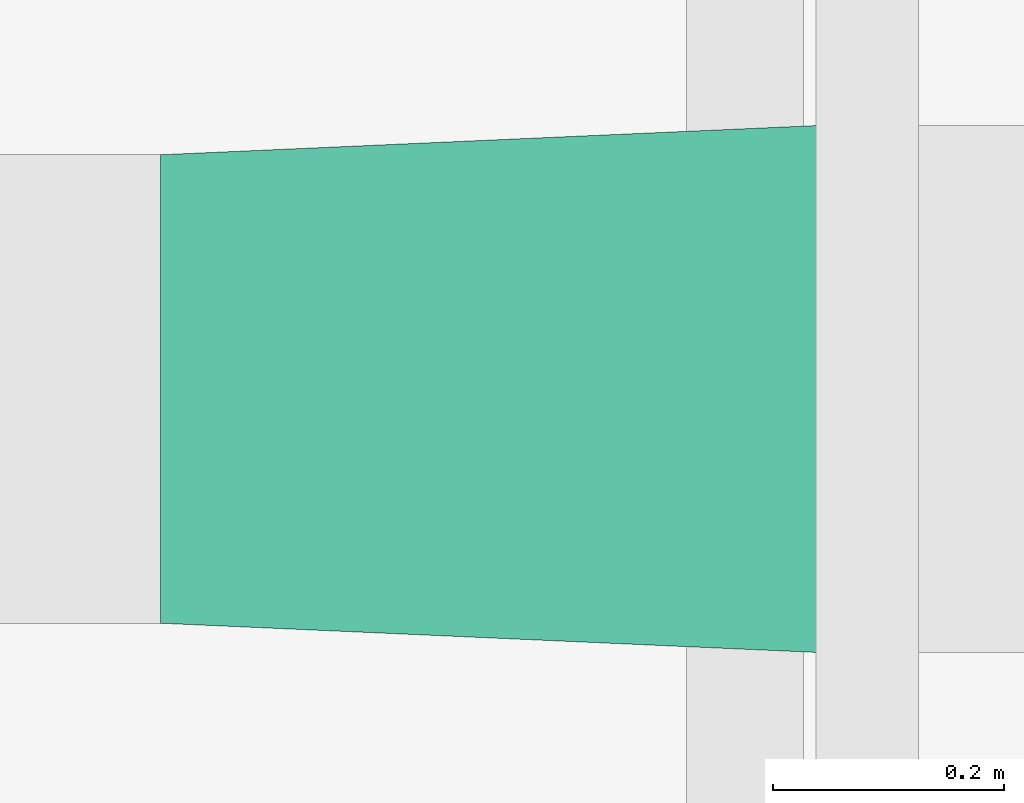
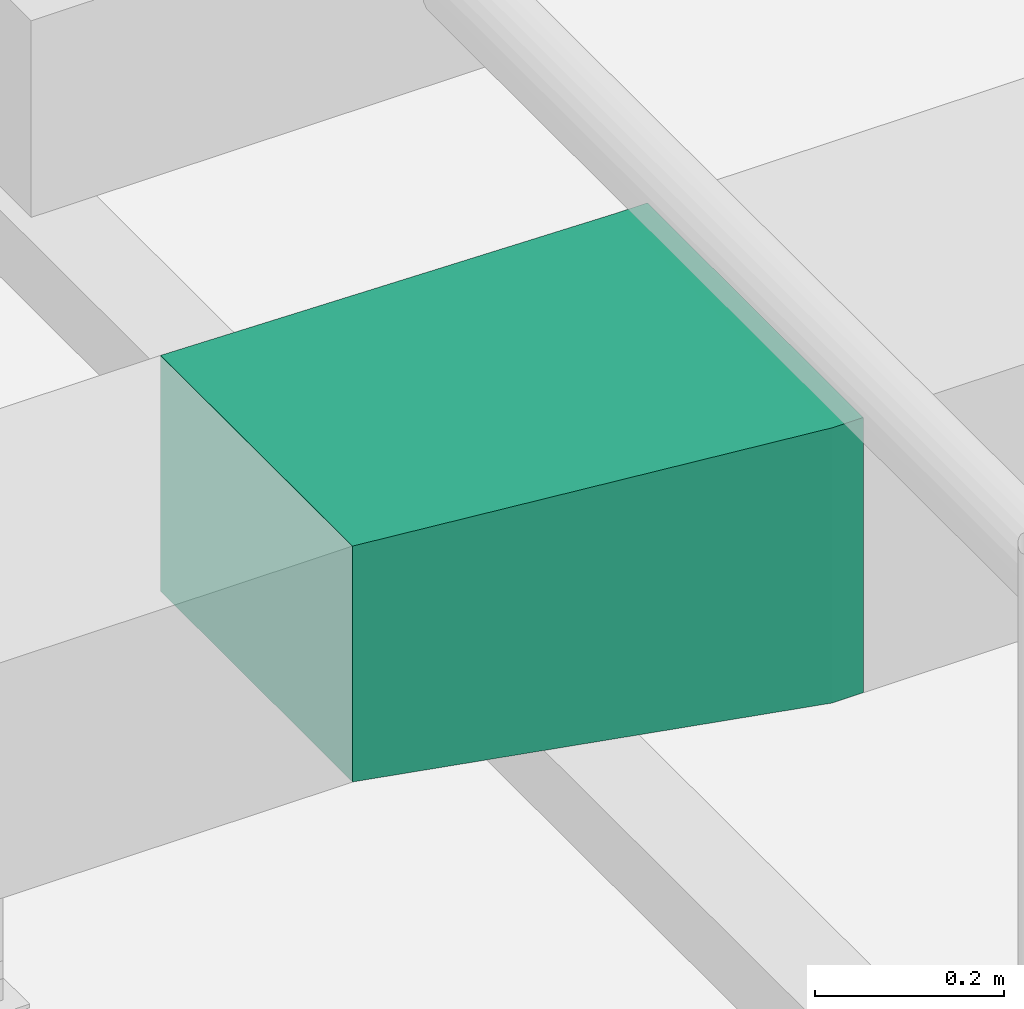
# One storey, part 106 of 108: 1 duct fitting.
"""IFC4 building model written with IfcOpenShell, lengths in feet."""

import ifcopenshell
import ifcopenshell.guid

model = None  # the IFC model being written
_history = None  # IfcOwnerHistory: only IFC2X3 demands one
_inside = {}  # id of a spatial element -> (the spatial element, [elements in it])
_under = {}  # id of a project, library or spatial element -> (it, [spatial elements below it])
_declared = {}  # id of a project -> (the project, [libraries it declares])
_typed = {}  # id of a type object -> (the type object, [elements of that type])
_made_of = {}  # id of a material, layer set ... -> (it, [elements and type objects made of it])


def new_model(schema):
    """Start an empty IFC model of exactly this schema.

    Asked for "IFC4X3", IfcOpenShell would pick the latest addendum, in which some entities
    have other attributes; the version numbers below select the first issue.
    IFC2X3 requires an IfcOwnerHistory on every rooted entity: one is made here for all.
    """
    global model, _history
    if schema == "IFC4X3":
        model = ifcopenshell.file(schema_version=(4, 3, 0, 0))
    else:
        model = ifcopenshell.file(schema=schema)
    _inside.clear()
    _under.clear()
    _declared.clear()
    _typed.clear()
    _made_of.clear()
    _history = None
    if model.schema == "IFC2X3":
        org = make("IfcOrganization", Name="unknown")
        user = make(
            "IfcPersonAndOrganization",
            ThePerson=make("IfcPerson", FamilyName="unknown"),
            TheOrganization=org,
        )
        app = make(
            "IfcApplication",
            ApplicationDeveloper=org,
            Version="unknown",
            ApplicationFullName="unknown",
            ApplicationIdentifier="unknown",
        )
        _history = make(
            "IfcOwnerHistory",
            OwningUser=user,
            OwningApplication=app,
            ChangeAction="ADDED",
            CreationDate=0,
        )
    return model


def make(cls, **values):
    """One entity of the class cls with the attributes given. An attribute that is None is left unset."""
    return model.create_entity(
        cls, **{name: value for name, value in values.items() if value is not None}
    )


def entity(cls, *values):
    """Any entity or typed value of the class cls, its attributes in the order of the schema. None: left unset."""
    e = model.create_entity(cls)
    for i, value in enumerate(values):
        if value is not None:
            e[i] = value
    return e


def rooted(cls, **values):
    """An entity with a GlobalId (a new one), such as an element, a storey or a relation."""
    return make(cls, GlobalId=ifcopenshell.guid.new(), OwnerHistory=_history, **values)


def si_unit(unit_type, name, prefix=None):
    """IfcSIUnit, for example si_unit("LENGTHUNIT", "METRE", prefix="MILLI")."""
    return make("IfcSIUnit", UnitType=unit_type, Prefix=prefix, Name=name)


def converted_unit(unit_type, name, factor, base, dimensions=None, offset=None):
    """IfcConversionBasedUnit, such as the inch: factor (a typed value) times the base unit."""
    return make(
        "IfcConversionBasedUnit"
        if offset is None
        else "IfcConversionBasedUnitWithOffset",
        ConversionOffset=offset,
        Dimensions=None
        if dimensions is None
        else entity("IfcDimensionalExponents", *dimensions),
        UnitType=unit_type,
        Name=name,
        ConversionFactor=make(
            "IfcMeasureWithUnit", ValueComponent=factor, UnitComponent=base
        ),
    )


def derived_unit(unit_type, elements):
    """IfcDerivedUnit: a product of units, each with its exponent."""
    return make(
        "IfcDerivedUnit",
        Elements=[
            make("IfcDerivedUnitElement", Unit=unit, Exponent=power)
            for unit, power in elements
        ],
        UnitType=unit_type,
    )


def assignment(units):
    """IfcUnitAssignment: the units of a project."""
    return None if units is None else make("IfcUnitAssignment", Units=units)


def point(xyz):
    """IfcCartesianPoint."""
    return None if xyz is None else make("IfcCartesianPoint", Coordinates=xyz)


def direction(xyz):
    """IfcDirection."""
    return None if xyz is None else make("IfcDirection", DirectionRatios=xyz)


def frame(location, z_axis=None, x_axis=None):
    """IfcAxis2Placement3D, a coordinate frame: its origin and axes. An axis left out is left unset."""
    return make(
        "IfcAxis2Placement3D",
        Location=point(location),
        Axis=direction(z_axis),
        RefDirection=direction(x_axis),
    )


def origin():
    """The frame at (0, 0, 0) with its axes left unset."""
    return frame((0.0, 0.0, 0.0))


def place(relative_to, where):
    """IfcLocalPlacement: puts the frame where relative to a parent placement (None: the world)."""
    return make(
        "IfcLocalPlacement", PlacementRelTo=relative_to, RelativePlacement=where
    )


def context(
    kind, dimensions, precision=None, world=None, true_north=None, identifier=None
):
    """IfcGeometricRepresentationContext, for example the 3D "Model" context."""
    return make(
        "IfcGeometricRepresentationContext",
        ContextIdentifier=identifier,
        ContextType=kind,
        CoordinateSpaceDimension=dimensions,
        Precision=precision,
        WorldCoordinateSystem=world,
        TrueNorth=true_north,
    )


def subcontext(parent, identifier, kind, view, scale=None):
    """IfcGeometricRepresentationSubContext, for example "Body" below "Model"."""
    return make(
        "IfcGeometricRepresentationSubContext",
        ContextIdentifier=identifier,
        ContextType=kind,
        ParentContext=parent,
        TargetScale=scale,
        TargetView=view,
    )


def project(units=None, contexts=None):
    """IfcProject with its units and contexts."""
    return rooted(
        "IfcProject",
        Name="project",
        RepresentationContexts=contexts,
        UnitsInContext=assignment(units),
    )


def spatial(cls, under=None, at=None, **own):
    """A site, building, storey or space (cls), placed at a placement, below another one or the project."""
    s = rooted(cls, ObjectPlacement=at, **own)
    if under is not None:
        _under.setdefault(under.id(), (under, []))[1].append(s)
    return s


def shape(context_of_items, identifier, shape_type, items):
    """IfcShapeRepresentation: the items that make up one representation, for example the "Body"."""
    return make(
        "IfcShapeRepresentation",
        ContextOfItems=context_of_items,
        RepresentationIdentifier=identifier,
        RepresentationType=shape_type,
        Items=items,
    )


def source(mapping_origin, context_of_items, identifier, shape_type, items):
    """IfcRepresentationMap: a shape defined once, which mapped items show again and again."""
    return make(
        "IfcRepresentationMap",
        MappingOrigin=mapping_origin,
        MappedRepresentation=shape(context_of_items, identifier, shape_type, items),
    )


def transform(
    local_origin,
    x_axis=None,
    y_axis=None,
    z_axis=None,
    scale=None,
    scale2=None,
    scale3=None,
    uniform=True,
):
    """IfcCartesianTransformationOperator3D, or its non-uniform kind. x_axis, y_axis, z_axis: its Axis1, 2, 3."""
    if uniform:
        return make(
            "IfcCartesianTransformationOperator3D",
            Axis1=direction(x_axis),
            Axis2=direction(y_axis),
            LocalOrigin=point(local_origin),
            Scale=scale,
            Axis3=direction(z_axis),
        )
    return make(
        "IfcCartesianTransformationOperator3DnonUniform",
        Axis1=direction(x_axis),
        Axis2=direction(y_axis),
        LocalOrigin=point(local_origin),
        Scale=scale,
        Axis3=direction(z_axis),
        Scale2=scale2,
        Scale3=scale3,
    )


def mapped(mapping_source, mapping_target):
    """IfcMappedItem: shows the shape of a source again, moved by a transform."""
    return make(
        "IfcMappedItem", MappingSource=mapping_source, MappingTarget=mapping_target
    )


def made_of(thing, what):
    """Note that an element or type object is made of a material, layer set ...; save() writes the relation."""
    if what is not None:
        _made_of.setdefault(what.id(), (what, []))[1].append(thing)
    return thing


def type_object(cls, material=None, **own):
    """A type object (cls), such as IfcWallType, which elements share."""
    return made_of(rooted(cls, **own), material)


def type_shapes(of_type, sources):
    """Give a type object the sources (RepresentationMaps) that its elements show as mapped items."""
    of_type.RepresentationMaps = sources


def element(
    cls,
    number,
    at=None,
    inside=None,
    cuts=None,
    type_object=None,
    material=None,
    context=None,
    identifier="Body",
    shape_type=None,
    held_by="IfcProductDefinitionShape",
    body=None,
    shapes=None,
    **own,
):
    """One element of the class cls, such as IfcWall. Its Tag is "e" and its number.

    at: its placement. inside: the storey or other place that contains it. cuts: it is an
    opening in that element (IfcRelVoidsElement). A single representation is given by context,
    identifier, shape_type and body (its items); several are given by shapes. held_by: the class
    of the entity that holds the representations. save() writes the other relations.
    """
    e = rooted(cls, Tag="e%d" % number, ObjectPlacement=at, **own)
    if body is not None:
        shapes = [shape(context, identifier, shape_type, body)]
    if shapes is not None:
        e.Representation = make(held_by, Representations=shapes)
    if inside is not None:
        _inside.setdefault(inside.id(), (inside, []))[1].append(e)
    if cuts is not None:
        rooted(
            "IfcRelVoidsElement", RelatingBuildingElement=cuts, RelatedOpeningElement=e
        )
    if type_object is not None:
        _typed.setdefault(type_object.id(), (type_object, []))[1].append(e)
    return made_of(e, material)


def aggregate(whole, parts):
    """IfcRelAggregates: a whole, such as a stair, and the parts it consists of."""
    return rooted("IfcRelAggregates", RelatingObject=whole, RelatedObjects=parts)


def save(model, path):
    """Write the relations noted so far, then the file.

    IfcRelAggregates (storeys below a building ...), IfcRelContainedInSpatialStructure (elements
    in a storey), IfcRelDefinesByType, IfcRelAssociatesMaterial and IfcRelDeclares: one each for
    every whole, place, type object, material and project.
    """
    for whole, parts in _under.values():
        aggregate(whole, parts)
    for where, things in _inside.values():
        rooted(
            "IfcRelContainedInSpatialStructure",
            RelatedElements=things,
            RelatingStructure=where,
        )
    for kind, things in _typed.values():
        rooted("IfcRelDefinesByType", RelatedObjects=things, RelatingType=kind)
    for what, things in _made_of.values():
        rooted("IfcRelAssociatesMaterial", RelatedObjects=things, RelatingMaterial=what)
    for by, libraries in _declared.values():
        rooted("IfcRelDeclares", RelatingContext=by, RelatedDefinitions=libraries)
    model.write(path)


model = new_model("IFC4")

# Units and contexts
model_context = context("Model", 3, precision=0.0001, world=origin(), true_north=direction((6.12303176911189e-17, 1.0)))
body_context = subcontext(model_context, "Body", "Model", "MODEL_VIEW")
ifc_project = project(units=[converted_unit("LENGTHUNIT", "FOOT", entity("IfcRatioMeasure", 0.3048), si_unit("LENGTHUNIT", "METRE"), dimensions=[1, 0, 0, 0, 0, 0, 0]), converted_unit("AREAUNIT", "SQUARE FOOT", entity("IfcRatioMeasure", 0.09290304), si_unit("AREAUNIT", "SQUARE_METRE"), dimensions=[2, 0, 0, 0, 0, 0, 0]), converted_unit("VOLUMEUNIT", "CUBIC FOOT", entity("IfcRatioMeasure", 0.028316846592), si_unit("VOLUMEUNIT", "CUBIC_METRE"), dimensions=[3, 0, 0, 0, 0, 0, 0]), converted_unit("PLANEANGLEUNIT", "DEGREE", entity("IfcRatioMeasure", 0.0174532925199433), si_unit("PLANEANGLEUNIT", "RADIAN"), dimensions=[0, 0, 0, 0, 0, 0, 0]), si_unit("MASSUNIT", "GRAM", prefix="KILO"), derived_unit("MASSDENSITYUNIT", [(si_unit("MASSUNIT", "GRAM", prefix="KILO"), 1), (si_unit("LENGTHUNIT", "METRE"), -3)]), si_unit("TIMEUNIT", "SECOND"), si_unit("FREQUENCYUNIT", "HERTZ"), si_unit("THERMODYNAMICTEMPERATUREUNIT", "DEGREE_CELSIUS"), derived_unit("THERMALTRANSMITTANCEUNIT", [(si_unit("MASSUNIT", "GRAM", prefix="KILO"), 1), (si_unit("THERMODYNAMICTEMPERATUREUNIT", "KELVIN"), -1), (si_unit("TIMEUNIT", "SECOND"), -3)]), derived_unit("VOLUMETRICFLOWRATEUNIT", [(si_unit("LENGTHUNIT", "METRE"), 3), (si_unit("TIMEUNIT", "SECOND"), -1)]), si_unit("ELECTRICCURRENTUNIT", "AMPERE"), si_unit("ELECTRICVOLTAGEUNIT", "VOLT"), si_unit("POWERUNIT", "WATT"), si_unit("FORCEUNIT", "NEWTON"), si_unit("ILLUMINANCEUNIT", "LUX"), si_unit("LUMINOUSFLUXUNIT", "LUMEN"), si_unit("LUMINOUSINTENSITYUNIT", "CANDELA"), derived_unit("USERDEFINED", [(si_unit("MASSUNIT", "GRAM", prefix="KILO"), -1), (si_unit("LENGTHUNIT", "METRE"), -2), (si_unit("TIMEUNIT", "SECOND"), 3), (si_unit("LUMINOUSFLUXUNIT", "LUMEN"), 1)]), derived_unit("LINEARVELOCITYUNIT", [(si_unit("LENGTHUNIT", "METRE"), 1), (si_unit("TIMEUNIT", "SECOND"), -1)]), si_unit("PRESSUREUNIT", "PASCAL"), derived_unit("USERDEFINED", [(si_unit("LENGTHUNIT", "METRE"), -2), (si_unit("MASSUNIT", "GRAM", prefix="KILO"), 1), (si_unit("TIMEUNIT", "SECOND"), -2)])], contexts=[model_context])

# Site, building, storey
site_placement = place(None, origin())
site = spatial("IfcSite", under=ifc_project, at=site_placement, Name="Default", CompositionType="ELEMENT")
building_placement = place(site_placement, origin())
building = spatial("IfcBuilding", under=site, at=building_placement, CompositionType="ELEMENT")
storey_placement = place(building_placement, frame((0.0, 0.0, 168.0)))
storey = spatial("IfcBuildingStorey", under=building, at=storey_placement, Name="Level 15", CompositionType="ELEMENT", Elevation=168.0)

# Duct fitting
duct_fitting_type = type_object("IfcDuctFittingType", Name="Standard", PredefinedType="NOTDEFINED")
cartesian_point_1 = entity("IfcCartesianPoint", [2.0, 0.666666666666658, -0.312500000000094])
vertex_point_1 = entity("IfcVertexPoint", cartesian_point_1)
cartesian_point_2 = entity("IfcCartesianPoint", [2.0, 0.666666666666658, 0.687499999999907])
vertex_point_2 = entity("IfcVertexPoint", cartesian_point_2)
ifc_direction_1 = entity("IfcDirection", [0.0, 0.0, 1.0])
edge_curve_1 = entity("IfcEdgeCurve", vertex_point_1, vertex_point_2, entity("IfcTrimmedCurve", entity("IfcLine", cartesian_point_1, entity("IfcVector", ifc_direction_1, 1.0)), [cartesian_point_1], [cartesian_point_2], True, "CARTESIAN"), True)
cartesian_point_3 = entity("IfcCartesianPoint", [2.0, -0.666666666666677, 0.687499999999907])
vertex_point_3 = entity("IfcVertexPoint", cartesian_point_3)
ifc_direction_2 = entity("IfcDirection", [0.0, -1.0, 0.0])
edge_curve_2 = entity("IfcEdgeCurve", vertex_point_2, vertex_point_3, entity("IfcTrimmedCurve", entity("IfcLine", cartesian_point_2, entity("IfcVector", ifc_direction_2, 1.0)), [cartesian_point_2], [cartesian_point_3], True, "CARTESIAN"), True)
cartesian_point_4 = entity("IfcCartesianPoint", [2.0, -0.666666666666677, -0.312500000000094])
vertex_point_4 = entity("IfcVertexPoint", cartesian_point_4)
ifc_direction_3 = entity("IfcDirection", [0.0, 0.0, -1.0])
edge_curve_3 = entity("IfcEdgeCurve", vertex_point_3, vertex_point_4, entity("IfcTrimmedCurve", entity("IfcLine", cartesian_point_3, entity("IfcVector", ifc_direction_3, 1.0)), [cartesian_point_3], [cartesian_point_4], True, "CARTESIAN"), True)
ifc_direction_4 = entity("IfcDirection", [0.0, 1.0, 0.0])
edge_curve_4 = entity("IfcEdgeCurve", vertex_point_4, vertex_point_1, entity("IfcTrimmedCurve", entity("IfcLine", cartesian_point_4, entity("IfcVector", ifc_direction_4, 1.0)), [cartesian_point_4], [cartesian_point_1], True, "CARTESIAN"), True)
ifc_direction_5 = entity("IfcDirection", [1.0, 0.0, 0.0])
cartesian_point_5 = entity("IfcCartesianPoint", [1.99739583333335, 0.666666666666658, -0.312500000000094])
vertex_point_5 = entity("IfcVertexPoint", cartesian_point_5)
cartesian_point_6 = entity("IfcCartesianPoint", [1.99739583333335, -0.666666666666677, -0.312500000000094])
vertex_point_6 = entity("IfcVertexPoint", cartesian_point_6)
edge_curve_5 = entity("IfcEdgeCurve", vertex_point_5, vertex_point_6, entity("IfcTrimmedCurve", entity("IfcLine", cartesian_point_5, entity("IfcVector", ifc_direction_2, 1.0)), [cartesian_point_5], [cartesian_point_6], True, "CARTESIAN"), True)
cartesian_point_7 = entity("IfcCartesianPoint", [1.99739583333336, -0.666666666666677, 0.687499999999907])
vertex_point_7 = entity("IfcVertexPoint", cartesian_point_7)
edge_curve_6 = entity("IfcEdgeCurve", vertex_point_6, vertex_point_7, entity("IfcTrimmedCurve", entity("IfcLine", cartesian_point_6, entity("IfcVector", ifc_direction_1, 1.0)), [cartesian_point_6], [cartesian_point_7], True, "CARTESIAN"), True)
cartesian_point_8 = entity("IfcCartesianPoint", [1.99739583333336, 0.666666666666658, 0.687499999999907])
vertex_point_8 = entity("IfcVertexPoint", cartesian_point_8)
edge_curve_7 = entity("IfcEdgeCurve", vertex_point_7, vertex_point_8, entity("IfcTrimmedCurve", entity("IfcLine", cartesian_point_7, entity("IfcVector", ifc_direction_4, 1.0)), [cartesian_point_7], [cartesian_point_8], True, "CARTESIAN"), True)
edge_curve_8 = entity("IfcEdgeCurve", vertex_point_8, vertex_point_5, entity("IfcTrimmedCurve", entity("IfcLine", cartesian_point_8, entity("IfcVector", ifc_direction_3, 1.0)), [cartesian_point_8], [cartesian_point_5], True, "CARTESIAN"), True)
ifc_direction_6 = entity("IfcDirection", [-1.0, 0.0, 0.0])
edge_curve_9 = entity("IfcEdgeCurve", vertex_point_1, vertex_point_5, entity("IfcTrimmedCurve", entity("IfcLine", cartesian_point_1, entity("IfcVector", ifc_direction_6, 1.0)), [cartesian_point_1], [cartesian_point_5], True, "CARTESIAN"), True)
edge_curve_10 = entity("IfcEdgeCurve", vertex_point_8, vertex_point_2, entity("IfcTrimmedCurve", entity("IfcLine", cartesian_point_2, entity("IfcVector", ifc_direction_5, 1.0)), [cartesian_point_8], [cartesian_point_2], True, "CARTESIAN"), True)
edge_curve_11 = entity("IfcEdgeCurve", vertex_point_7, vertex_point_3, entity("IfcTrimmedCurve", entity("IfcLine", cartesian_point_3, entity("IfcVector", ifc_direction_5, 1.0)), [cartesian_point_7], [cartesian_point_3], True, "CARTESIAN"), True)
edge_curve_12 = entity("IfcEdgeCurve", vertex_point_6, vertex_point_4, entity("IfcTrimmedCurve", entity("IfcLine", cartesian_point_4, entity("IfcVector", ifc_direction_5, 1.0)), [cartesian_point_6], [cartesian_point_4], True, "CARTESIAN"), True)
cartesian_point_9 = entity("IfcCartesianPoint", [0.125000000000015, 0.749999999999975, -0.583333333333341])
vertex_point_9 = entity("IfcVertexPoint", cartesian_point_9)
cartesian_point_10 = entity("IfcCartesianPoint", [0.125000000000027, 0.749999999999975, 0.583333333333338])
vertex_point_10 = entity("IfcVertexPoint", cartesian_point_10)
ifc_direction_7 = entity("IfcDirection", [0.0, 0.0, 1.0])
edge_curve_13 = entity("IfcEdgeCurve", vertex_point_9, vertex_point_10, entity("IfcTrimmedCurve", entity("IfcLine", cartesian_point_9, entity("IfcVector", ifc_direction_7, 1.0)), [cartesian_point_9], [cartesian_point_10], True, "CARTESIAN"), True)
cartesian_point_11 = entity("IfcCartesianPoint", [0.125000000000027, -0.750000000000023, 0.583333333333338])
vertex_point_11 = entity("IfcVertexPoint", cartesian_point_11)
ifc_direction_8 = entity("IfcDirection", [0.0, -1.0, 0.0])
edge_curve_14 = entity("IfcEdgeCurve", vertex_point_10, vertex_point_11, entity("IfcTrimmedCurve", entity("IfcLine", cartesian_point_10, entity("IfcVector", ifc_direction_8, 1.0)), [cartesian_point_10], [cartesian_point_11], True, "CARTESIAN"), True)
cartesian_point_12 = entity("IfcCartesianPoint", [0.125000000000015, -0.750000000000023, -0.583333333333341])
vertex_point_12 = entity("IfcVertexPoint", cartesian_point_12)
ifc_direction_9 = entity("IfcDirection", [0.0, 0.0, -1.0])
edge_curve_15 = entity("IfcEdgeCurve", vertex_point_11, vertex_point_12, entity("IfcTrimmedCurve", entity("IfcLine", cartesian_point_11, entity("IfcVector", ifc_direction_9, 1.0)), [cartesian_point_11], [cartesian_point_12], True, "CARTESIAN"), True)
ifc_direction_10 = entity("IfcDirection", [0.0, 1.0, 0.0])
edge_curve_16 = entity("IfcEdgeCurve", vertex_point_12, vertex_point_9, entity("IfcTrimmedCurve", entity("IfcLine", cartesian_point_12, entity("IfcVector", ifc_direction_10, 1.0)), [cartesian_point_12], [cartesian_point_9], True, "CARTESIAN"), True)
ifc_direction_11 = entity("IfcDirection", [1.0, 0.0, 0.0])
cartesian_point_13 = entity("IfcCartesianPoint", [0.0, 0.749999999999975, -0.583333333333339])
vertex_point_13 = entity("IfcVertexPoint", cartesian_point_13)
cartesian_point_14 = entity("IfcCartesianPoint", [0.0, -0.750000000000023, -0.583333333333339])
vertex_point_14 = entity("IfcVertexPoint", cartesian_point_14)
edge_curve_17 = entity("IfcEdgeCurve", vertex_point_13, vertex_point_14, entity("IfcTrimmedCurve", entity("IfcLine", cartesian_point_13, entity("IfcVector", ifc_direction_8, 1.0)), [cartesian_point_13], [cartesian_point_14], True, "CARTESIAN"), True)
cartesian_point_15 = entity("IfcCartesianPoint", [0.0, -0.750000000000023, 0.58333333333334])
vertex_point_15 = entity("IfcVertexPoint", cartesian_point_15)
edge_curve_18 = entity("IfcEdgeCurve", vertex_point_14, vertex_point_15, entity("IfcTrimmedCurve", entity("IfcLine", cartesian_point_14, entity("IfcVector", ifc_direction_7, 1.0)), [cartesian_point_14], [cartesian_point_15], True, "CARTESIAN"), True)
cartesian_point_16 = entity("IfcCartesianPoint", [0.0, 0.749999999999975, 0.58333333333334])
vertex_point_16 = entity("IfcVertexPoint", cartesian_point_16)
edge_curve_19 = entity("IfcEdgeCurve", vertex_point_15, vertex_point_16, entity("IfcTrimmedCurve", entity("IfcLine", cartesian_point_15, entity("IfcVector", ifc_direction_10, 1.0)), [cartesian_point_15], [cartesian_point_16], True, "CARTESIAN"), True)
edge_curve_20 = entity("IfcEdgeCurve", vertex_point_16, vertex_point_13, entity("IfcTrimmedCurve", entity("IfcLine", cartesian_point_16, entity("IfcVector", ifc_direction_9, 1.0)), [cartesian_point_16], [cartesian_point_13], True, "CARTESIAN"), True)
ifc_direction_12 = entity("IfcDirection", [-1.0, 0.0, 0.0])
edge_curve_21 = entity("IfcEdgeCurve", vertex_point_9, vertex_point_13, entity("IfcTrimmedCurve", entity("IfcLine", cartesian_point_9, entity("IfcVector", ifc_direction_12, 1.0)), [cartesian_point_9], [cartesian_point_13], True, "CARTESIAN"), True)
edge_curve_22 = entity("IfcEdgeCurve", vertex_point_16, vertex_point_10, entity("IfcTrimmedCurve", entity("IfcLine", cartesian_point_10, entity("IfcVector", ifc_direction_11, 1.0)), [cartesian_point_16], [cartesian_point_10], True, "CARTESIAN"), True)
edge_curve_23 = entity("IfcEdgeCurve", vertex_point_15, vertex_point_11, entity("IfcTrimmedCurve", entity("IfcLine", cartesian_point_11, entity("IfcVector", ifc_direction_11, 1.0)), [cartesian_point_15], [cartesian_point_11], True, "CARTESIAN"), True)
edge_curve_24 = entity("IfcEdgeCurve", vertex_point_14, vertex_point_12, entity("IfcTrimmedCurve", entity("IfcLine", cartesian_point_12, entity("IfcVector", ifc_direction_11, 1.0)), [cartesian_point_14], [cartesian_point_12], True, "CARTESIAN"), True)
cartesian_point_17 = entity("IfcCartesianPoint", [0.12500000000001, 0.749999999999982, 0.583333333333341])
vertex_point_17 = entity("IfcVertexPoint", cartesian_point_17)
cartesian_point_18 = entity("IfcCartesianPoint", [0.125000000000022, 0.749999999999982, -0.583333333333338])
vertex_point_18 = entity("IfcVertexPoint", cartesian_point_18)
ifc_direction_13 = entity("IfcDirection", [0.0, 0.0, -1.0])
edge_curve_25 = entity("IfcEdgeCurve", vertex_point_17, vertex_point_18, entity("IfcTrimmedCurve", entity("IfcLine", cartesian_point_18, entity("IfcVector", ifc_direction_13, 1.0)), [cartesian_point_17], [cartesian_point_18], True, "CARTESIAN"), True)
cartesian_point_19 = entity("IfcCartesianPoint", [0.125000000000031, -0.750000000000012, -0.583333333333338])
vertex_point_19 = entity("IfcVertexPoint", cartesian_point_19)
ifc_direction_14 = entity("IfcDirection", [0.0, -1.0, 0.0])
edge_curve_26 = entity("IfcEdgeCurve", vertex_point_18, vertex_point_19, entity("IfcTrimmedCurve", entity("IfcLine", cartesian_point_19, entity("IfcVector", ifc_direction_14, 1.0)), [cartesian_point_18], [cartesian_point_19], True, "CARTESIAN"), True)
cartesian_point_20 = entity("IfcCartesianPoint", [0.125000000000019, -0.750000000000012, 0.583333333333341])
vertex_point_20 = entity("IfcVertexPoint", cartesian_point_20)
ifc_direction_15 = entity("IfcDirection", [0.0, 0.0, 1.0])
edge_curve_27 = entity("IfcEdgeCurve", vertex_point_19, vertex_point_20, entity("IfcTrimmedCurve", entity("IfcLine", cartesian_point_20, entity("IfcVector", ifc_direction_15, 1.0)), [cartesian_point_19], [cartesian_point_20], True, "CARTESIAN"), True)
ifc_direction_16 = entity("IfcDirection", [0.0, 1.0, 0.0])
edge_curve_28 = entity("IfcEdgeCurve", vertex_point_20, vertex_point_17, entity("IfcTrimmedCurve", entity("IfcLine", cartesian_point_17, entity("IfcVector", ifc_direction_16, 1.0)), [cartesian_point_20], [cartesian_point_17], True, "CARTESIAN"), True)
cartesian_point_21 = entity("IfcCartesianPoint", [1.99739583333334, 0.666666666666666, 0.687499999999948])
vertex_point_21 = entity("IfcVertexPoint", cartesian_point_21)
cartesian_point_22 = entity("IfcCartesianPoint", [1.99739583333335, -0.666666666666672, 0.687499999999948])
vertex_point_22 = entity("IfcVertexPoint", cartesian_point_22)
edge_curve_29 = entity("IfcEdgeCurve", vertex_point_21, vertex_point_22, entity("IfcTrimmedCurve", entity("IfcLine", cartesian_point_22, entity("IfcVector", ifc_direction_14, 1.0)), [cartesian_point_21], [cartesian_point_22], True, "CARTESIAN"), True)
cartesian_point_23 = entity("IfcCartesianPoint", [1.99739583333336, -0.666666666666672, -0.312500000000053])
vertex_point_23 = entity("IfcVertexPoint", cartesian_point_23)
edge_curve_30 = entity("IfcEdgeCurve", vertex_point_22, vertex_point_23, entity("IfcTrimmedCurve", entity("IfcLine", cartesian_point_23, entity("IfcVector", ifc_direction_13, 1.0)), [cartesian_point_22], [cartesian_point_23], True, "CARTESIAN"), True)
cartesian_point_24 = entity("IfcCartesianPoint", [1.99739583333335, 0.666666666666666, -0.312500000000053])
vertex_point_24 = entity("IfcVertexPoint", cartesian_point_24)
edge_curve_31 = entity("IfcEdgeCurve", vertex_point_23, vertex_point_24, entity("IfcTrimmedCurve", entity("IfcLine", cartesian_point_24, entity("IfcVector", ifc_direction_16, 1.0)), [cartesian_point_23], [cartesian_point_24], True, "CARTESIAN"), True)
edge_curve_32 = entity("IfcEdgeCurve", vertex_point_24, vertex_point_21, entity("IfcTrimmedCurve", entity("IfcLine", cartesian_point_21, entity("IfcVector", ifc_direction_15, 1.0)), [cartesian_point_24], [cartesian_point_21], True, "CARTESIAN"), True)
edge_curve_33 = entity("IfcEdgeCurve", vertex_point_24, vertex_point_18, entity("IfcTrimmedCurve", entity("IfcLine", cartesian_point_24, entity("IfcVector", entity("IfcDirection", [-0.988741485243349, 0.0440051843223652, -0.143016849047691]), 1.0)), [cartesian_point_24], [cartesian_point_18], True, "CARTESIAN"), True)
edge_curve_34 = entity("IfcEdgeCurve", vertex_point_17, vertex_point_21, entity("IfcTrimmedCurve", entity("IfcLine", cartesian_point_17, entity("IfcVector", entity("IfcDirection", [0.997471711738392, -0.0443937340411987, 0.0554921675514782]), 1.0)), [cartesian_point_17], [cartesian_point_21], True, "CARTESIAN"), True)
edge_curve_35 = entity("IfcEdgeCurve", vertex_point_23, vertex_point_19, entity("IfcTrimmedCurve", entity("IfcLine", cartesian_point_23, entity("IfcVector", entity("IfcDirection", [-0.988741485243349, -0.0440051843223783, -0.143016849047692]), 1.0)), [cartesian_point_23], [cartesian_point_19], True, "CARTESIAN"), True)
edge_curve_36 = entity("IfcEdgeCurve", vertex_point_22, vertex_point_20, entity("IfcTrimmedCurve", entity("IfcLine", cartesian_point_22, entity("IfcVector", entity("IfcDirection", [-0.997471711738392, -0.0443937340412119, -0.0554921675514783]), 1.0)), [cartesian_point_22], [cartesian_point_20], True, "CARTESIAN"), True)
shared_shape = source(origin(), body_context, "Body", "AdvancedBrep", [
    entity("IfcAdvancedBrep", entity("IfcClosedShell", [entity("IfcAdvancedFace", [entity("IfcFaceOuterBound", entity("IfcEdgeLoop", [entity("IfcOrientedEdge", None, None, edge_curve_1, True), entity("IfcOrientedEdge", None, None, edge_curve_2, True), entity("IfcOrientedEdge", None, None, edge_curve_3, True), entity("IfcOrientedEdge", None, None, edge_curve_4, True)]), True)], entity("IfcPlane", entity("IfcAxis2Placement3D", cartesian_point_1, ifc_direction_5, ifc_direction_1)), True), entity("IfcAdvancedFace", [entity("IfcFaceOuterBound", entity("IfcEdgeLoop", [entity("IfcOrientedEdge", None, None, edge_curve_5, True), entity("IfcOrientedEdge", None, None, edge_curve_6, True), entity("IfcOrientedEdge", None, None, edge_curve_7, True), entity("IfcOrientedEdge", None, None, edge_curve_8, True)]), True)], entity("IfcPlane", entity("IfcAxis2Placement3D", cartesian_point_5, ifc_direction_6, ifc_direction_3)), True), entity("IfcAdvancedFace", [entity("IfcFaceOuterBound", entity("IfcEdgeLoop", [entity("IfcOrientedEdge", None, None, edge_curve_1, False), entity("IfcOrientedEdge", None, None, edge_curve_9, True), entity("IfcOrientedEdge", None, None, edge_curve_8, False), entity("IfcOrientedEdge", None, None, edge_curve_10, True)]), True)], entity("IfcPlane", entity("IfcAxis2Placement3D", cartesian_point_1, ifc_direction_4, ifc_direction_6)), True), entity("IfcAdvancedFace", [entity("IfcFaceOuterBound", entity("IfcEdgeLoop", [entity("IfcOrientedEdge", None, None, edge_curve_2, False), entity("IfcOrientedEdge", None, None, edge_curve_10, False), entity("IfcOrientedEdge", None, None, edge_curve_7, False), entity("IfcOrientedEdge", None, None, edge_curve_11, True)]), True)], entity("IfcPlane", entity("IfcAxis2Placement3D", cartesian_point_2, ifc_direction_1, ifc_direction_6)), True), entity("IfcAdvancedFace", [entity("IfcFaceOuterBound", entity("IfcEdgeLoop", [entity("IfcOrientedEdge", None, None, edge_curve_3, False), entity("IfcOrientedEdge", None, None, edge_curve_11, False), entity("IfcOrientedEdge", None, None, edge_curve_6, False), entity("IfcOrientedEdge", None, None, edge_curve_12, True)]), True)], entity("IfcPlane", entity("IfcAxis2Placement3D", cartesian_point_3, ifc_direction_2, ifc_direction_6)), True), entity("IfcAdvancedFace", [entity("IfcFaceOuterBound", entity("IfcEdgeLoop", [entity("IfcOrientedEdge", None, None, edge_curve_4, False), entity("IfcOrientedEdge", None, None, edge_curve_12, False), entity("IfcOrientedEdge", None, None, edge_curve_5, False), entity("IfcOrientedEdge", None, None, edge_curve_9, False)]), True)], entity("IfcPlane", entity("IfcAxis2Placement3D", cartesian_point_4, ifc_direction_3, ifc_direction_6)), True)])),
    entity("IfcAdvancedBrep", entity("IfcClosedShell", [entity("IfcAdvancedFace", [entity("IfcFaceOuterBound", entity("IfcEdgeLoop", [entity("IfcOrientedEdge", None, None, edge_curve_13, True), entity("IfcOrientedEdge", None, None, edge_curve_14, True), entity("IfcOrientedEdge", None, None, edge_curve_15, True), entity("IfcOrientedEdge", None, None, edge_curve_16, True)]), True)], entity("IfcPlane", entity("IfcAxis2Placement3D", cartesian_point_9, ifc_direction_11, ifc_direction_7)), True), entity("IfcAdvancedFace", [entity("IfcFaceOuterBound", entity("IfcEdgeLoop", [entity("IfcOrientedEdge", None, None, edge_curve_17, True), entity("IfcOrientedEdge", None, None, edge_curve_18, True), entity("IfcOrientedEdge", None, None, edge_curve_19, True), entity("IfcOrientedEdge", None, None, edge_curve_20, True)]), True)], entity("IfcPlane", entity("IfcAxis2Placement3D", cartesian_point_13, ifc_direction_12, ifc_direction_9)), True), entity("IfcAdvancedFace", [entity("IfcFaceOuterBound", entity("IfcEdgeLoop", [entity("IfcOrientedEdge", None, None, edge_curve_13, False), entity("IfcOrientedEdge", None, None, edge_curve_21, True), entity("IfcOrientedEdge", None, None, edge_curve_20, False), entity("IfcOrientedEdge", None, None, edge_curve_22, True)]), True)], entity("IfcPlane", entity("IfcAxis2Placement3D", cartesian_point_9, ifc_direction_10, ifc_direction_12)), True), entity("IfcAdvancedFace", [entity("IfcFaceOuterBound", entity("IfcEdgeLoop", [entity("IfcOrientedEdge", None, None, edge_curve_14, False), entity("IfcOrientedEdge", None, None, edge_curve_22, False), entity("IfcOrientedEdge", None, None, edge_curve_19, False), entity("IfcOrientedEdge", None, None, edge_curve_23, True)]), True)], entity("IfcPlane", entity("IfcAxis2Placement3D", cartesian_point_10, ifc_direction_7, ifc_direction_12)), True), entity("IfcAdvancedFace", [entity("IfcFaceOuterBound", entity("IfcEdgeLoop", [entity("IfcOrientedEdge", None, None, edge_curve_15, False), entity("IfcOrientedEdge", None, None, edge_curve_23, False), entity("IfcOrientedEdge", None, None, edge_curve_18, False), entity("IfcOrientedEdge", None, None, edge_curve_24, True)]), True)], entity("IfcPlane", entity("IfcAxis2Placement3D", cartesian_point_11, ifc_direction_8, ifc_direction_12)), True), entity("IfcAdvancedFace", [entity("IfcFaceOuterBound", entity("IfcEdgeLoop", [entity("IfcOrientedEdge", None, None, edge_curve_16, False), entity("IfcOrientedEdge", None, None, edge_curve_24, False), entity("IfcOrientedEdge", None, None, edge_curve_17, False), entity("IfcOrientedEdge", None, None, edge_curve_21, False)]), True)], entity("IfcPlane", entity("IfcAxis2Placement3D", cartesian_point_12, ifc_direction_9, ifc_direction_12)), True)])),
    entity("IfcAdvancedBrep", entity("IfcClosedShell", [entity("IfcAdvancedFace", [entity("IfcFaceOuterBound", entity("IfcEdgeLoop", [entity("IfcOrientedEdge", None, None, edge_curve_25, True), entity("IfcOrientedEdge", None, None, edge_curve_26, True), entity("IfcOrientedEdge", None, None, edge_curve_27, True), entity("IfcOrientedEdge", None, None, edge_curve_28, True)]), True)], entity("IfcPlane", entity("IfcAxis2Placement3D", entity("IfcCartesianPoint", [0.125000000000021, 0.0, 0.0]), entity("IfcDirection", [-1.0, 0.0, 0.0]), ifc_direction_13)), True), entity("IfcAdvancedFace", [entity("IfcFaceOuterBound", entity("IfcEdgeLoop", [entity("IfcOrientedEdge", None, None, edge_curve_29, True), entity("IfcOrientedEdge", None, None, edge_curve_30, True), entity("IfcOrientedEdge", None, None, edge_curve_31, True), entity("IfcOrientedEdge", None, None, edge_curve_32, True)]), True)], entity("IfcPlane", entity("IfcAxis2Placement3D", entity("IfcCartesianPoint", [1.99739583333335, 0.0, 0.187499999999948]), entity("IfcDirection", [1.0, 0.0, 0.0]), ifc_direction_13)), True), entity("IfcAdvancedFace", [entity("IfcFaceOuterBound", entity("IfcEdgeLoop", [entity("IfcOrientedEdge", None, None, edge_curve_32, False), entity("IfcOrientedEdge", None, None, edge_curve_33, True), entity("IfcOrientedEdge", None, None, edge_curve_25, False), entity("IfcOrientedEdge", None, None, edge_curve_34, True)]), True)], entity("IfcPlane", entity("IfcAxis2Placement3D", entity("IfcCartesianPoint", [1.99739583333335, 0.666666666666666, 0.187499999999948]), entity("IfcDirection", [0.0444622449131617, 0.999011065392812, 0.0]), ifc_direction_13)), True), entity("IfcAdvancedFace", [entity("IfcFaceOuterBound", entity("IfcEdgeLoop", [entity("IfcOrientedEdge", None, None, edge_curve_31, False), entity("IfcOrientedEdge", None, None, edge_curve_35, True), entity("IfcOrientedEdge", None, None, edge_curve_26, False), entity("IfcOrientedEdge", None, None, edge_curve_33, False)]), True)], entity("IfcPlane", entity("IfcAxis2Placement3D", entity("IfcCartesianPoint", [1.99739583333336, 0.0, -0.312500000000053]), entity("IfcDirection", [0.143155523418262, 0.0, -0.989700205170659]), ifc_direction_14)), True), entity("IfcAdvancedFace", [entity("IfcFaceOuterBound", entity("IfcEdgeLoop", [entity("IfcOrientedEdge", None, None, edge_curve_30, False), entity("IfcOrientedEdge", None, None, edge_curve_36, True), entity("IfcOrientedEdge", None, None, edge_curve_27, False), entity("IfcOrientedEdge", None, None, edge_curve_35, False)]), True)], entity("IfcPlane", entity("IfcAxis2Placement3D", entity("IfcCartesianPoint", [1.99739583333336, -0.666666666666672, 0.187499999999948]), entity("IfcDirection", [0.044462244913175, -0.999011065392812, 0.0]), ifc_direction_15)), True), entity("IfcAdvancedFace", [entity("IfcFaceOuterBound", entity("IfcEdgeLoop", [entity("IfcOrientedEdge", None, None, edge_curve_29, False), entity("IfcOrientedEdge", None, None, edge_curve_34, False), entity("IfcOrientedEdge", None, None, edge_curve_28, False), entity("IfcOrientedEdge", None, None, edge_curve_36, False)]), True)], entity("IfcPlane", entity("IfcAxis2Placement3D", entity("IfcCartesianPoint", [1.99739583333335, 0.0, 0.687499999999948]), entity("IfcDirection", [-0.05554693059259, 0.0, 0.998456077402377]), ifc_direction_16)), True)])),
])
type_shapes(duct_fitting_type, [shared_shape])
duct_fitting_placement = place(storey_placement, frame((-32.175020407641, -11.1821076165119, 9.395833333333), z_axis=(0.0, 0.0, 1.0), x_axis=(-1.0, 0.0, 0.0)))
element("IfcDuctFitting", 1, at=duct_fitting_placement, inside=storey, type_object=duct_fitting_type, Name="Rectangular Length Eccentric Transition - DTL:Standard", ObjectType="Rectangular Length Eccentric Transition - DTL:Standard", PredefinedType="NOTDEFINED", context=body_context, shape_type="MappedRepresentation", body=[
    mapped(shared_shape, transform((0.0, 0.0, 0.0), scale=1.0)),
])

save(model, "model.ifc")
